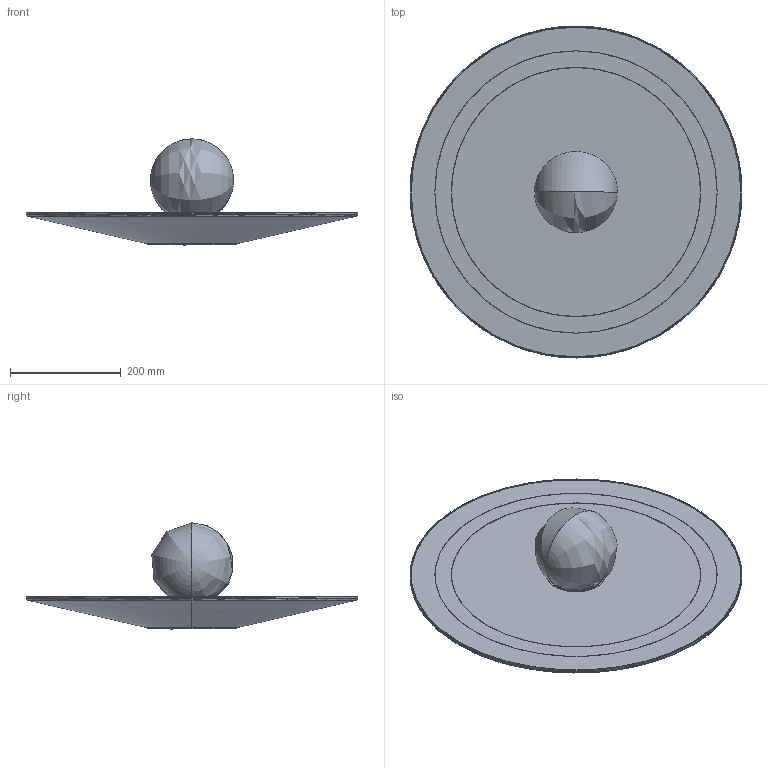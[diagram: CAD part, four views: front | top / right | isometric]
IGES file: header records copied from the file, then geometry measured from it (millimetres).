
Start section: SolidWorks IGES file using analytic representation for surfaces
Global section: file name: \\192.168.0.53\Reserch Development\SITO WEB\2024\File 2D 3D\Prodotti\Caricamenti\Cartelle non compresse\Caleide Eos\De Castelli-3D-Caleide Eos 60.IGS; native system: SolidWorks 2025; preprocessor: SolidWorks 2025; author: lauraa; date: 260514.093926; units: millimetre
Bounding box: 600 x 600 x 191.71 mm (x, y, z)
Surface area: 964830.7 mm2 (no closed solid volume)
Topology: 0 solids, 0 shells, 112 faces, 3168 edges, 3167 vertices
Faces by surface type: bspline 70, revolution 42
